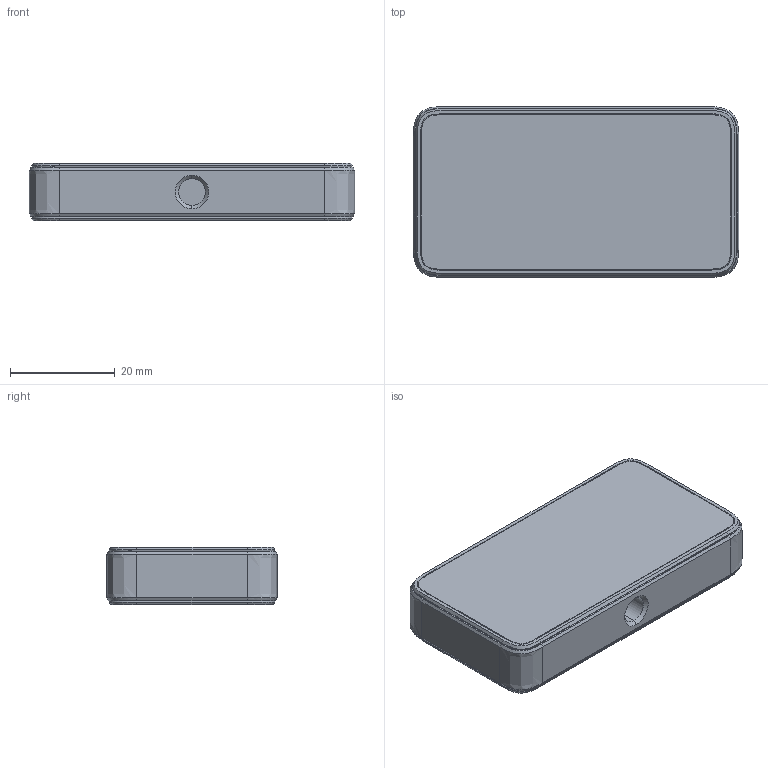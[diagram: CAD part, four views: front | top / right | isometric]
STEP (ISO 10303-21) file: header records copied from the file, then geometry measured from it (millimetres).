
FILE_DESCRIPTION((''),'2;1');
FILE_NAME('TA_F455_PERIPERIAL_EXTERNAL__ASM','2020-07-23T12:17:49',('wkho'),('INTEL'),'CREO PARAMETRIC BY PTC INC, 2019080','CREO PARAMETRIC BY PTC INC, 2019080','');
FILE_SCHEMA(('CONFIG_CONTROL_DESIGN'));
Products named in the file (48): MEC090091_1; PORON_FOAM-128014_1; ADHESIVE-134838_1; MEC090099_ASM_1_ASM; MOVE_FACE2_1__1; MOVE_FACE2_2__1; MEC090092_ASM_1_ASM; 00_F450_BOARD_ASSY-01_ASM_1_ASM; MEC090100_1; PORON_FOAM-124040_1; ADHESIVE-126421_1; MEC090098_ASM_1_ASM; AM0900093_EXPLODED_ASM_1_ASM; MEC090097_1; AM0900092_ASM_1_ASM; AUX_HIROSE_DF52-10S-0_8H_1; USB-C_AMP_10137062C_1; AS0905001_ASM_1_ASM; MD0945501_00_JULY13_1_ASM_1_ASM; MD0945501_00_JULY13_ASM_1_ASM; USB-C_AMP_10137062C; AS0905001_ASM; AM0900084_REV04_MERGE_2; AM0900084_REV04_MERGE_8; AM0900084_REV04_MERGE; AM0900084_REV04_MERGE_3; AM0900084_REV04_MERGE_12; AM0900084_REV04_MERGE_13; AM0900084_REV04_MERGE_16; AM0900084_REV04_MERGE_14; AM0900084_REV04_MERGE_17; AM0900084_REV04_MERGE_18; AM0900084_REV04_MERGE_19; AM0900084_REV04_MERGE_7; AM0900084_REV04_MERGE_5; AM0900084_REV04_MERGE_9; AM0900084_REV04_MERGE_11; AM0900084_REV04_MERGE_6; AM0900084_REV04_MERGE_4; LIMA2_5_MODULE_TYPE-C__OEMD1__1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
Assembly tree (48 placements, depth 6):
  TA_F455_PERIPERIAL_EXTERNAL__ASM
    MD0945501_00_JULY13_ASM_1_ASM
      MD0945501_00_JULY13_1_ASM_1_ASM
        MEC090091_1
        00_F450_BOARD_ASSY-01_ASM_1_ASM
          MEC090099_ASM_1_ASM
            PORON_FOAM-128014_1
            ADHESIVE-134838_1
          MEC090092_ASM_1_ASM
            MOVE_FACE2_1__1
            MOVE_FACE2_2__1
        AM0900093_EXPLODED_ASM_1_ASM
          MEC090100_1
          MEC090098_ASM_1_ASM  x2
            PORON_FOAM-124040_1
            ADHESIVE-126421_1
        AM0900092_ASM_1_ASM
          MEC090097_1
        AS0905001_ASM_1_ASM
          AUX_HIROSE_DF52-10S-0_8H_1
          USB-C_AMP_10137062C_1
    AS0905001_ASM
      USB-C_AMP_10137062C
    FG0945001_BOARD_ASM
      F450_MODULE_-_AM0900084_REV04_M_ASM
        AM0900084_REV04_MERGE_2
        AM0900084_REV04_MERGE_8
        AM0900084_REV04_MERGE
        AM0900084_REV04_MERGE_3
        AM0900084_REV04_MERGE_12
        AM0900084_REV04_MERGE_13
        AM0900084_REV04_MERGE_16
        AM0900084_REV04_MERGE_14
        AM0900084_REV04_MERGE_17
        AM0900084_REV04_MERGE_18
        AM0900084_REV04_MERGE_19
        AM0900084_REV04_MERGE_7
        AM0900084_REV04_MERGE_5
        AM0900084_REV04_MERGE_9
        AM0900084_REV04_MERGE_11
        AM0900084_REV04_MERGE_6
        AM0900084_REV04_MERGE_4
        LIMA2_5_MODULE_TYPE-C__OEMD1__1
        AM0900084_REV04_MERGE_10
        AM0900084_REV04_MERGE_15
    AM0900092_ASM
      MEC090097
      ADH000091
Bounding box: 62 x 32.5 x 11 mm (x, y, z)
Volume: 15056.1 mm3; surface area: 21995.4 mm2
Topology: 30 solids, 55 shells, 5059 faces, 13918 edges, 9346 vertices
Faces by surface type: plane 3924, cylinder 703, extrusion 144, bspline 102, cone 94, torus 44, sphere 40, revolution 8
Entity records: 187693 total; most frequent: CARTESIAN_POINT 58256, ORIENTED_EDGE 27400, DIRECTION 24653, EDGE_CURVE 13874, VECTOR 11113, LINE 10969, VERTEX_POINT 9330, AXIS2_PLACEMENT_3D 6766
